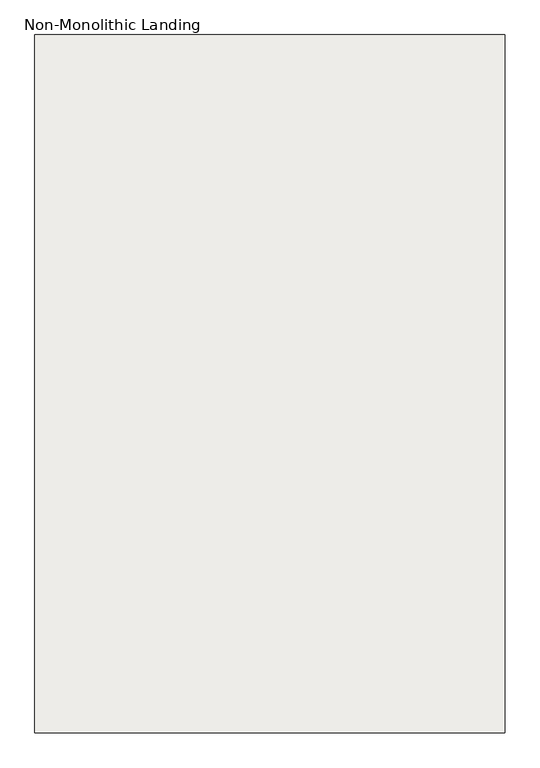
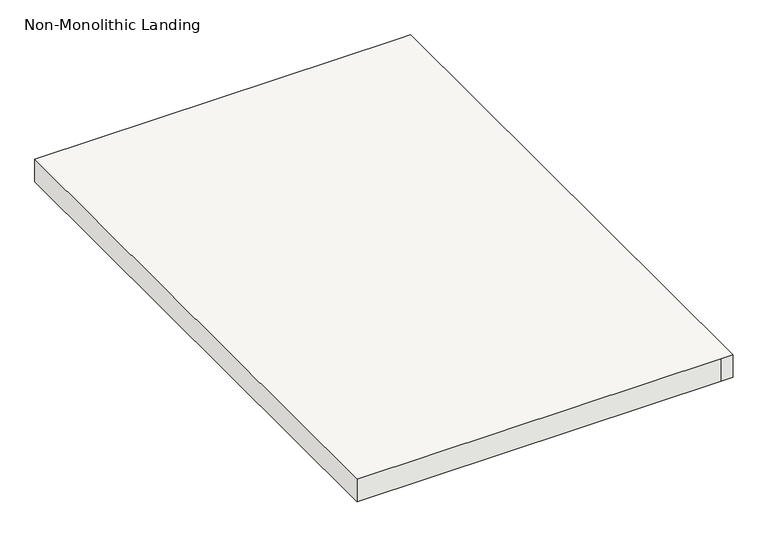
"""IFC4 building model written with IfcOpenShell, lengths in millimetres: slab geometry, Non-Monolithic Landing."""

from ifc_helpers import new_model, si_unit, frame, origin, place, context, project, spatial, polyline, outline, extrude, source, transform, mapped, element, save


def non_monolithic_landing_e9fda9be(model_context):
    return source(origin(), model_context, "Body", "SweptSolid", [
        extrude(outline(polyline([(-10775.6813244, -30217.3006776), (-9988.2813244, -30217.3006776), (-9962.8813244, -30217.3006776), (-9962.8813244, -31423.1861116), (-9988.2813244, -31423.1861116), (-10775.6813244, -31423.1861116), (-10775.6813244, -30217.3006776)])), frame((0.0, 0.0, 1690.9142857), z_axis=(0.0, 0.0, 1.0), x_axis=(1.0, 0.0, 0.0)), (0.0, 0.0, 1.0), 50.8),
    ])


if __name__ == "__main__":
    model = new_model("IFC4")
    model_context = context("Model", 3, world=origin())
    ifc_project = project(units=[si_unit("LENGTHUNIT", "METRE", prefix="MILLI")], contexts=[model_context])
    site = spatial("IfcSite", under=ifc_project)
    building = spatial("IfcBuilding", under=site)
    placement = place(None, origin())
    non_monolithic_landing_shape = non_monolithic_landing_e9fda9be(model_context)
    element("IfcSlab", 1, ObjectType="Non-Monolithic Landing", at=placement, inside=building, context=model_context, shape_type="MappedRepresentation", body=[
        mapped(non_monolithic_landing_shape, transform((0.0, 0.0, 0.0), x_axis=(1.0, 0.0, 0.0), y_axis=(0.0, 1.0, 0.0), z_axis=(0.0, 0.0, 1.0))),
    ])
    save(model, "model.ifc")
